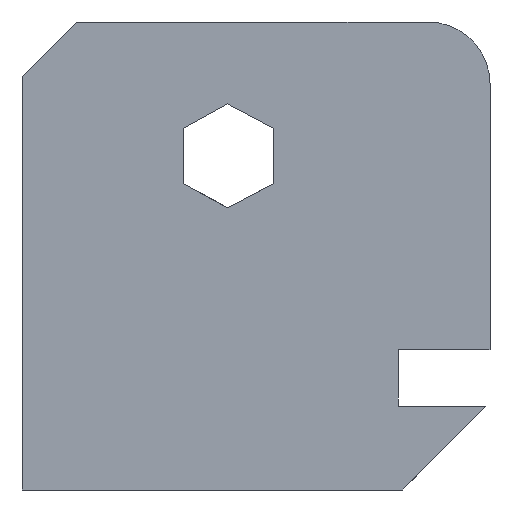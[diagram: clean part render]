
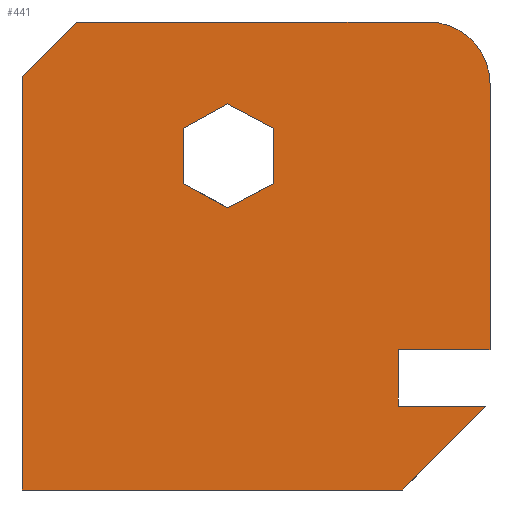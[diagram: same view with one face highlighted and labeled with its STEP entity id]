
A CAD part, front view. The second image highlights one B-rep face of the part: STEP entity #441.
In plain terms, the highlighted planar face has unit normal (0, -1, 0).
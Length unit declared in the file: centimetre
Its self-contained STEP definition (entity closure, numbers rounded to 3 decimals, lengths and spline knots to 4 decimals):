
#1 = AXIS2_PLACEMENT_3D ( 'NONE', #88, #776, #528 ) ;
#10 = CARTESIAN_POINT ( 'NONE',  ( 439.785, 0., 602.5759 ) ) ;
#26 = CIRCLE ( 'NONE', #1, 132.2845 ) ;
#32 = ORIENTED_EDGE ( 'NONE', *, *, #497, .T. ) ;
#42 = CARTESIAN_POINT ( 'NONE',  ( 116.8739, 0., 1000. ) ) ;
#60 = VECTOR ( 'NONE', #1082, 100. ) ;
#78 = DIRECTION ( 'NONE',  ( 0., 0., -1. ) ) ;
#88 = CARTESIAN_POINT ( 'NONE',  ( 867.7155, 0., 867.7155 ) ) ;
#98 = LINE ( 'NONE', #1013, #387 ) ;
#101 = ORIENTED_EDGE ( 'NONE', *, *, #652, .T. ) ;
#103 = DIRECTION ( 'NONE',  ( 0.875, 0., 0.484 ) ) ;
#104 = VERTEX_POINT ( 'NONE', #1033 ) ;
#106 = LINE ( 'NONE', #544, #258 ) ;
#107 = EDGE_CURVE ( 'NONE', #1344, #1343, #904, .T. ) ;
#114 = CARTESIAN_POINT ( 'NONE',  ( 803.4481, 0., 299.8974 ) ) ;
#131 = CARTESIAN_POINT ( 'NONE',  ( 345.4369, 0., 654.7642 ) ) ;
#135 = ORIENTED_EDGE ( 'NONE', *, *, #986, .T. ) ;
#162 = CARTESIAN_POINT ( 'NONE',  ( 803.4481, 0., 179.367 ) ) ;
#172 = ORIENTED_EDGE ( 'NONE', *, *, #175, .T. ) ;
#175 = EDGE_CURVE ( 'NONE', #1343, #902, #502, .T. ) ;
#177 = EDGE_CURVE ( 'NONE', #321, #104, #1071, .T. ) ;
#201 = PLANE ( 'NONE',  #674 ) ;
#207 = VERTEX_POINT ( 'NONE', #601 ) ;
#210 = LINE ( 'NONE', #647, #211 ) ;
#211 = VECTOR ( 'NONE', #103, 100. ) ;
#223 = CARTESIAN_POINT ( 'NONE',  ( 867.7155, 0., 1000. ) ) ;
#247 = EDGE_LOOP ( 'NONE', ( #412, #32, #1009, #172, #1108, #101 ) ) ;
#258 = VECTOR ( 'NONE', #1005, 100. ) ;
#276 = DIRECTION ( 'NONE',  ( -0.707, 0., -0.707 ) ) ;
#296 = ORIENTED_EDGE ( 'NONE', *, *, #935, .F. ) ;
#297 = CARTESIAN_POINT ( 'NONE',  ( 538.0885, 0., 772.8425 ) ) ;
#318 = VECTOR ( 'NONE', #791, 100. ) ;
#321 = VERTEX_POINT ( 'NONE', #42 ) ;
#323 = VECTOR ( 'NONE', #78, 100. ) ;
#335 = LINE ( 'NONE', #1139, #318 ) ;
#342 = LINE ( 'NONE', #131, #858 ) ;
#387 = VECTOR ( 'NONE', #782, 100. ) ;
#391 = DIRECTION ( 'NONE',  ( -0.875, 0., 0.484 ) ) ;
#403 = VERTEX_POINT ( 'NONE', #114 ) ;
#412 = ORIENTED_EDGE ( 'NONE', *, *, #1096, .T. ) ;
#437 = VECTOR ( 'NONE', #600, 100. ) ;
#441 = ADVANCED_FACE ( 'NONE', ( #658, #872 ), #201, .F. ) ;
#453 = EDGE_CURVE ( 'NONE', #104, #512, #98, .T. ) ;
#460 = VECTOR ( 'NONE', #1115, 100. ) ;
#468 = CARTESIAN_POINT ( 'NONE',  ( 538.0885, 0., 654.7642 ) ) ;
#469 = DIRECTION ( 'NONE',  ( 0., 0., 1. ) ) ;
#496 = CARTESIAN_POINT ( 'NONE',  ( 538.0885, 0., 772.8425 ) ) ;
#497 = EDGE_CURVE ( 'NONE', #1110, #1344, #1416, .T. ) ;
#499 = LINE ( 'NONE', #625, #738 ) ;
#502 = LINE ( 'NONE', #1289, #1245 ) ;
#512 = VERTEX_POINT ( 'NONE', #1113 ) ;
#528 = DIRECTION ( 'NONE',  ( 0., 0., 1. ) ) ;
#535 = EDGE_CURVE ( 'NONE', #1149, #403, #106, .T. ) ;
#544 = CARTESIAN_POINT ( 'NONE',  ( 803.4481, 0., 299.8974 ) ) ;
#554 = VERTEX_POINT ( 'NONE', #1094 ) ;
#570 = DIRECTION ( 'NONE',  ( 1., 0., 0. ) ) ;
#575 = LINE ( 'NONE', #1259, #1153 ) ;
#600 = DIRECTION ( 'NONE',  ( 0., 0., -1. ) ) ;
#601 = CARTESIAN_POINT ( 'NONE',  ( 345.4369, 0., 772.8425 ) ) ;
#619 = CARTESIAN_POINT ( 'NONE',  ( 345.4369, 0., 654.7642 ) ) ;
#621 = ORIENTED_EDGE ( 'NONE', *, *, #1001, .F. ) ;
#623 = CARTESIAN_POINT ( 'NONE',  ( 991.3628, 0., 179.367 ) ) ;
#625 = CARTESIAN_POINT ( 'NONE',  ( 1000., 0., 188.0042 ) ) ;
#626 = ORIENTED_EDGE ( 'NONE', *, *, #177, .T. ) ;
#642 = DIRECTION ( 'NONE',  ( 0., 1., 0. ) ) ;
#645 = ORIENTED_EDGE ( 'NONE', *, *, #826, .F. ) ;
#647 = CARTESIAN_POINT ( 'NONE',  ( 345.4369, 0., 772.8425 ) ) ;
#652 = EDGE_CURVE ( 'NONE', #207, #990, #210, .T. ) ;
#658 = FACE_BOUND ( 'NONE', #247, .T. ) ;
#666 = DIRECTION ( 'NONE',  ( -0.883, 0., -0.469 ) ) ;
#674 = AXIS2_PLACEMENT_3D ( 'NONE', #1206, #642, #1197 ) ;
#694 = DIRECTION ( 'NONE',  ( 0.883, 0., -0.469 ) ) ;
#711 = CARTESIAN_POINT ( 'NONE',  ( 116.8739, 0., 1000. ) ) ;
#712 = CARTESIAN_POINT ( 'NONE',  ( 1000., 0., 299.8974 ) ) ;
#736 = CARTESIAN_POINT ( 'NONE',  ( 0., 0., 0. ) ) ;
#738 = VECTOR ( 'NONE', #850, 100. ) ;
#776 = DIRECTION ( 'NONE',  ( 0., -1., 0. ) ) ;
#782 = DIRECTION ( 'NONE',  ( 0., 0., -1. ) ) ;
#791 = DIRECTION ( 'NONE',  ( 1., 0., 0. ) ) ;
#796 = ORIENTED_EDGE ( 'NONE', *, *, #1059, .F. ) ;
#800 = VECTOR ( 'NONE', #666, 100. ) ;
#806 = LINE ( 'NONE', #921, #889 ) ;
#815 = ORIENTED_EDGE ( 'NONE', *, *, #841, .T. ) ;
#826 = EDGE_CURVE ( 'NONE', #979, #1149, #1302, .T. ) ;
#837 = CARTESIAN_POINT ( 'NONE',  ( 803.4481, 0., 179.367 ) ) ;
#841 = EDGE_CURVE ( 'NONE', #554, #1342, #499, .T. ) ;
#850 = DIRECTION ( 'NONE',  ( 0.707, 0., 0.707 ) ) ;
#858 = VECTOR ( 'NONE', #469, 100. ) ;
#865 = LINE ( 'NONE', #162, #460 ) ;
#872 = FACE_OUTER_BOUND ( 'NONE', #1232, .T. ) ;
#873 = EDGE_CURVE ( 'NONE', #512, #554, #1400, .T. ) ;
#889 = VECTOR ( 'NONE', #570, 100. ) ;
#902 = VERTEX_POINT ( 'NONE', #619 ) ;
#904 = LINE ( 'NONE', #468, #800 ) ;
#921 = CARTESIAN_POINT ( 'NONE',  ( 0., 0., 1000. ) ) ;
#925 = VERTEX_POINT ( 'NONE', #837 ) ;
#935 = EDGE_CURVE ( 'NONE', #403, #925, #865, .T. ) ;
#979 = VERTEX_POINT ( 'NONE', #1091 ) ;
#983 = VECTOR ( 'NONE', #276, 100. ) ;
#986 = EDGE_CURVE ( 'NONE', #979, #1297, #26, .T. ) ;
#990 = VERTEX_POINT ( 'NONE', #1377 ) ;
#1001 = EDGE_CURVE ( 'NONE', #321, #1297, #806, .T. ) ;
#1005 = DIRECTION ( 'NONE',  ( -1., 0., 0. ) ) ;
#1009 = ORIENTED_EDGE ( 'NONE', *, *, #107, .T. ) ;
#1013 = CARTESIAN_POINT ( 'NONE',  ( 0., 0., 1000. ) ) ;
#1033 = CARTESIAN_POINT ( 'NONE',  ( 0., 0., 883.1261 ) ) ;
#1044 = ORIENTED_EDGE ( 'NONE', *, *, #535, .F. ) ;
#1059 = EDGE_CURVE ( 'NONE', #925, #1342, #335, .T. ) ;
#1071 = LINE ( 'NONE', #711, #983 ) ;
#1078 = EDGE_CURVE ( 'NONE', #902, #207, #342, .T. ) ;
#1082 = DIRECTION ( 'NONE',  ( 1., 0., 0. ) ) ;
#1091 = CARTESIAN_POINT ( 'NONE',  ( 1000., 0., 867.7155 ) ) ;
#1094 = CARTESIAN_POINT ( 'NONE',  ( 811.9958, 0., 0. ) ) ;
#1096 = EDGE_CURVE ( 'NONE', #990, #1110, #575, .T. ) ;
#1108 = ORIENTED_EDGE ( 'NONE', *, *, #1078, .T. ) ;
#1110 = VERTEX_POINT ( 'NONE', #496 ) ;
#1113 = CARTESIAN_POINT ( 'NONE',  ( 0., 0., 0. ) ) ;
#1115 = DIRECTION ( 'NONE',  ( 0., 0., -1. ) ) ;
#1139 = CARTESIAN_POINT ( 'NONE',  ( 803.4481, 0., 179.367 ) ) ;
#1149 = VERTEX_POINT ( 'NONE', #712 ) ;
#1153 = VECTOR ( 'NONE', #694, 100. ) ;
#1175 = ORIENTED_EDGE ( 'NONE', *, *, #453, .T. ) ;
#1197 = DIRECTION ( 'NONE',  ( 0., 0., 1. ) ) ;
#1206 = CARTESIAN_POINT ( 'NONE',  ( 0., 0., 1000. ) ) ;
#1232 = EDGE_LOOP ( 'NONE', ( #296, #1044, #645, #135, #621, #626, #1175, #1256, #815, #796 ) ) ;
#1245 = VECTOR ( 'NONE', #391, 100. ) ;
#1256 = ORIENTED_EDGE ( 'NONE', *, *, #873, .T. ) ;
#1259 = CARTESIAN_POINT ( 'NONE',  ( 439.785, 0., 825.0308 ) ) ;
#1289 = CARTESIAN_POINT ( 'NONE',  ( 439.785, 0., 602.5759 ) ) ;
#1297 = VERTEX_POINT ( 'NONE', #223 ) ;
#1302 = LINE ( 'NONE', #1404, #437 ) ;
#1342 = VERTEX_POINT ( 'NONE', #623 ) ;
#1343 = VERTEX_POINT ( 'NONE', #10 ) ;
#1344 = VERTEX_POINT ( 'NONE', #1425 ) ;
#1377 = CARTESIAN_POINT ( 'NONE',  ( 439.785, 0., 825.0308 ) ) ;
#1400 = LINE ( 'NONE', #736, #60 ) ;
#1404 = CARTESIAN_POINT ( 'NONE',  ( 1000., 0., 1000. ) ) ;
#1416 = LINE ( 'NONE', #297, #323 ) ;
#1425 = CARTESIAN_POINT ( 'NONE',  ( 538.0885, 0., 654.7642 ) ) ;
